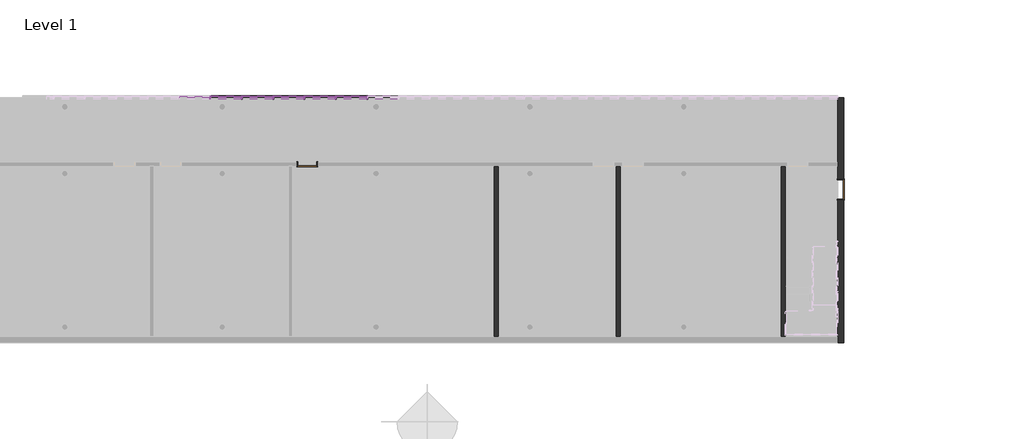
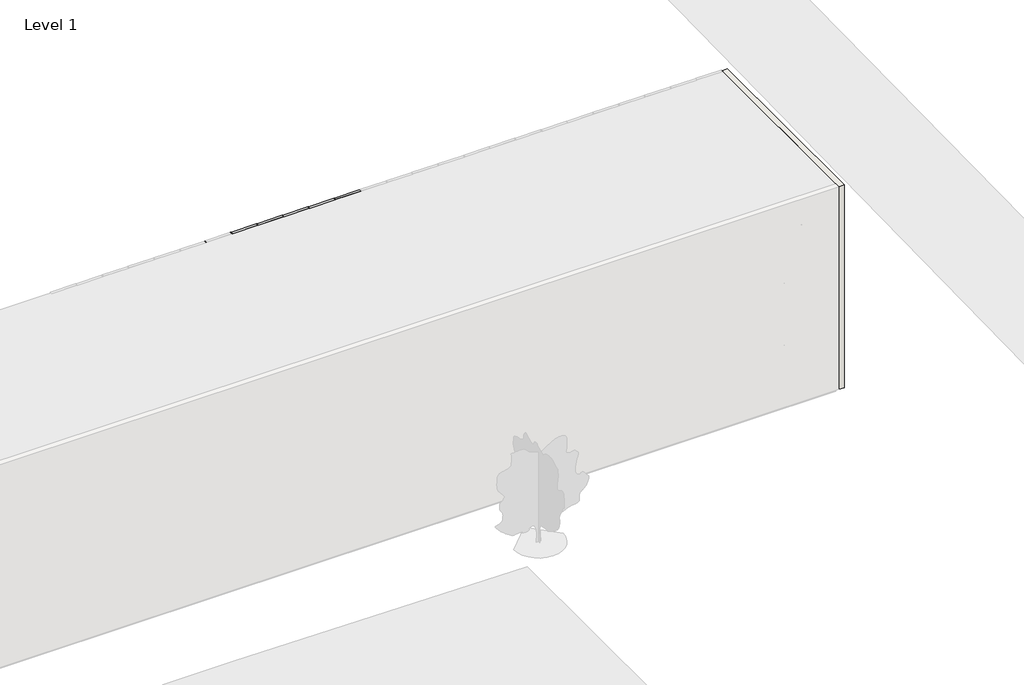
# One storey, part 6 of 27: 84 members, 40 plates, 4 walls, 2 doors.
"""IFC4 building model written with IfcOpenShell, lengths in millimetres."""

from ifc_helpers import new_model, si_unit, origin, origin_with_axes, place, context, project, spatial, polyline, outline, extrude, faceted_brep, transform, mapped, element, save
from components import door_0915mm_x_2134mm_3fa07aa3, door_0915mm_x_2134mm_b19b82af, rectangular_mullion_50mm_x_150mm_5f185edf, rectangular_mullion_50mm_x_150mm_e13fe9f0, rectangular_mullion_50mm_x_150mm_bbc1c4ea, rectangular_mullion_50mm_x_150mm_36202a7c, rectangular_mullion_50mm_x_150mm_84717ec5, system_panel_glazed_65478968, system_panel_glazed_4c130a31, system_panel_solid_368a6b70, system_panel_solid_ece33ae8

model = new_model("IFC4")

# Units and contexts
model_context = context("Model", 3, world=origin())
ifc_project = project(units=[si_unit("LENGTHUNIT", "METRE", prefix="MILLI")], contexts=[model_context])

# Site, building, storey
site = spatial("IfcSite", under=ifc_project)
building = spatial("IfcBuilding", under=site)
storey = spatial("IfcBuildingStorey", under=building, Name="Level 1", Elevation=0.0)

# Doors
placement = place(None, origin())
door_0915mm_x_2134mm_shape = door_0915mm_x_2134mm_3fa07aa3(model_context)
element("IfcDoor", 1, ObjectType="m-doors-hm-f1-a : 0915mm x 2134mm", at=placement, inside=storey, context=model_context, shape_type="MappedRepresentation", body=[
    mapped(door_0915mm_x_2134mm_shape, transform((31461.1968037, -15479.7006057, 0.0), x_axis=(1.0, 0.0, 0.0), y_axis=(0.0, 1.0, 0.0), z_axis=(0.0, 0.0, 1.0))),
])
door_0915mm_x_2134mm_2_shape = door_0915mm_x_2134mm_b19b82af(model_context)
element("IfcDoor", 2, ObjectType="m-doors-hm-f1-a : 0915mm x 2134mm", at=placement, inside=storey, context=model_context, shape_type="MappedRepresentation", body=[
    mapped(door_0915mm_x_2134mm_2_shape, transform((57025.1173382, -16504.7006057, 0.0), x_axis=(0.0, -1.0, 0.0), y_axis=(1.0, 0.0, 0.0), z_axis=(0.0, 0.0, 1.0))),
])

# Members
rectangular_mullion_50mm_x_150mm_shape = rectangular_mullion_50mm_x_150mm_5f185edf(model_context)
element("IfcMember", 3, ObjectType="Rectangular Mullion : 50mm x 150mm", at=placement, inside=storey, context=model_context, shape_type="MappedRepresentation", body=[
    mapped(rectangular_mullion_50mm_x_150mm_shape, transform((34337.0190355, -12132.3615692, 12400.0), x_axis=(0.0, 0.0, 1.0), y_axis=(0.0, 1.0, 0.0), z_axis=(-1.0, 0.0, 0.0))),
])
element("IfcMember", 4, ObjectType="Rectangular Mullion : 50mm x 150mm", at=placement, inside=storey, context=model_context, shape_type="MappedRepresentation", body=[
    mapped(rectangular_mullion_50mm_x_150mm_shape, transform((32844.5458154, -12132.3615692, 12400.0), x_axis=(0.0, 0.0, 1.0), y_axis=(0.0, 1.0, 0.0), z_axis=(-1.0, 0.0, 0.0))),
])
element("IfcMember", 5, ObjectType="Rectangular Mullion : 50mm x 150mm", at=placement, inside=storey, context=model_context, shape_type="MappedRepresentation", body=[
    mapped(rectangular_mullion_50mm_x_150mm_shape, transform((31352.0725952, -12132.3615692, 12400.0), x_axis=(0.0, 0.0, 1.0), y_axis=(0.0, 1.0, 0.0), z_axis=(-1.0, 0.0, 0.0))),
])
element("IfcMember", 6, ObjectType="Rectangular Mullion : 50mm x 150mm", at=placement, inside=storey, context=model_context, shape_type="MappedRepresentation", body=[
    mapped(rectangular_mullion_50mm_x_150mm_shape, transform((29859.599375, -12132.3615692, 12400.0), x_axis=(0.0, 0.0, 1.0), y_axis=(0.0, 1.0, 0.0), z_axis=(-1.0, 0.0, 0.0))),
])
element("IfcMember", 7, ObjectType="Rectangular Mullion : 50mm x 150mm", at=placement, inside=storey, context=model_context, shape_type="MappedRepresentation", body=[
    mapped(rectangular_mullion_50mm_x_150mm_shape, transform((28367.1261549, -12132.3615692, 12400.0), x_axis=(0.0, 0.0, 1.0), y_axis=(0.0, 1.0, 0.0), z_axis=(-1.0, 0.0, 0.0))),
])
element("IfcMember", 8, ObjectType="Rectangular Mullion : 50mm x 150mm", at=placement, inside=storey, context=model_context, shape_type="MappedRepresentation", body=[
    mapped(rectangular_mullion_50mm_x_150mm_shape, transform((34287.0190355, -12132.3615692, 0.0), x_axis=(0.0, 0.0, -1.0), y_axis=(0.0, 1.0, 0.0), z_axis=(1.0, 0.0, 0.0))),
])
element("IfcMember", 9, ObjectType="Rectangular Mullion : 50mm x 150mm", at=placement, inside=storey, context=model_context, shape_type="MappedRepresentation", body=[
    mapped(rectangular_mullion_50mm_x_150mm_shape, transform((32794.5458154, -12132.3615692, 0.0), x_axis=(0.0, 0.0, -1.0), y_axis=(0.0, 1.0, 0.0), z_axis=(1.0, 0.0, 0.0))),
])
element("IfcMember", 10, ObjectType="Rectangular Mullion : 50mm x 150mm", at=placement, inside=storey, context=model_context, shape_type="MappedRepresentation", body=[
    mapped(rectangular_mullion_50mm_x_150mm_shape, transform((31302.0725952, -12132.3615692, 0.0), x_axis=(0.0, 0.0, -1.0), y_axis=(0.0, 1.0, 0.0), z_axis=(1.0, 0.0, 0.0))),
])
element("IfcMember", 11, ObjectType="Rectangular Mullion : 50mm x 150mm", at=placement, inside=storey, context=model_context, shape_type="MappedRepresentation", body=[
    mapped(rectangular_mullion_50mm_x_150mm_shape, transform((29809.599375, -12132.3615692, 0.0), x_axis=(0.0, 0.0, -1.0), y_axis=(0.0, 1.0, 0.0), z_axis=(1.0, 0.0, 0.0))),
])
element("IfcMember", 12, ObjectType="Rectangular Mullion : 50mm x 150mm", at=placement, inside=storey, context=model_context, shape_type="MappedRepresentation", body=[
    mapped(rectangular_mullion_50mm_x_150mm_shape, transform((28317.1261549, -12132.3615692, 0.0), x_axis=(0.0, 0.0, -1.0), y_axis=(0.0, 1.0, 0.0), z_axis=(1.0, 0.0, 0.0))),
])
rectangular_mullion_50mm_x_150mm_2_shape = rectangular_mullion_50mm_x_150mm_e13fe9f0(model_context)
element("IfcMember", 13, ObjectType="Rectangular Mullion : 50mm x 150mm", at=placement, inside=storey, context=model_context, shape_type="MappedRepresentation", body=[
    mapped(rectangular_mullion_50mm_x_150mm_2_shape, transform((34337.0190355, -12132.3615692, 3800.0), x_axis=(0.0, 0.0, 1.0), y_axis=(0.0, 1.0, 0.0), z_axis=(-1.0, 0.0, 0.0))),
])
element("IfcMember", 14, ObjectType="Rectangular Mullion : 50mm x 150mm", at=placement, inside=storey, context=model_context, shape_type="MappedRepresentation", body=[
    mapped(rectangular_mullion_50mm_x_150mm_2_shape, transform((32844.5458154, -12132.3615692, 3800.0), x_axis=(0.0, 0.0, 1.0), y_axis=(0.0, 1.0, 0.0), z_axis=(-1.0, 0.0, 0.0))),
])
element("IfcMember", 15, ObjectType="Rectangular Mullion : 50mm x 150mm", at=placement, inside=storey, context=model_context, shape_type="MappedRepresentation", body=[
    mapped(rectangular_mullion_50mm_x_150mm_2_shape, transform((31352.0725952, -12132.3615692, 3800.0), x_axis=(0.0, 0.0, 1.0), y_axis=(0.0, 1.0, 0.0), z_axis=(-1.0, 0.0, 0.0))),
])
element("IfcMember", 16, ObjectType="Rectangular Mullion : 50mm x 150mm", at=placement, inside=storey, context=model_context, shape_type="MappedRepresentation", body=[
    mapped(rectangular_mullion_50mm_x_150mm_2_shape, transform((29859.599375, -12132.3615692, 3800.0), x_axis=(0.0, 0.0, 1.0), y_axis=(0.0, 1.0, 0.0), z_axis=(-1.0, 0.0, 0.0))),
])
element("IfcMember", 17, ObjectType="Rectangular Mullion : 50mm x 150mm", at=placement, inside=storey, context=model_context, shape_type="MappedRepresentation", body=[
    mapped(rectangular_mullion_50mm_x_150mm_2_shape, transform((28367.1261549, -12132.3615692, 3800.0), x_axis=(0.0, 0.0, 1.0), y_axis=(0.0, 1.0, 0.0), z_axis=(-1.0, 0.0, 0.0))),
])
element("IfcMember", 18, ObjectType="Rectangular Mullion : 50mm x 150mm", at=placement, inside=storey, context=model_context, shape_type="MappedRepresentation", body=[
    mapped(rectangular_mullion_50mm_x_150mm_2_shape, transform((34337.0190355, -12132.3615692, 7600.0), x_axis=(0.0, 0.0, 1.0), y_axis=(0.0, 1.0, 0.0), z_axis=(-1.0, 0.0, 0.0))),
])
element("IfcMember", 19, ObjectType="Rectangular Mullion : 50mm x 150mm", at=placement, inside=storey, context=model_context, shape_type="MappedRepresentation", body=[
    mapped(rectangular_mullion_50mm_x_150mm_2_shape, transform((32844.5458154, -12132.3615692, 7600.0), x_axis=(0.0, 0.0, 1.0), y_axis=(0.0, 1.0, 0.0), z_axis=(-1.0, 0.0, 0.0))),
])
element("IfcMember", 20, ObjectType="Rectangular Mullion : 50mm x 150mm", at=placement, inside=storey, context=model_context, shape_type="MappedRepresentation", body=[
    mapped(rectangular_mullion_50mm_x_150mm_2_shape, transform((31352.0725952, -12132.3615692, 7600.0), x_axis=(0.0, 0.0, 1.0), y_axis=(0.0, 1.0, 0.0), z_axis=(-1.0, 0.0, 0.0))),
])
element("IfcMember", 21, ObjectType="Rectangular Mullion : 50mm x 150mm", at=placement, inside=storey, context=model_context, shape_type="MappedRepresentation", body=[
    mapped(rectangular_mullion_50mm_x_150mm_2_shape, transform((29859.599375, -12132.3615692, 7600.0), x_axis=(0.0, 0.0, 1.0), y_axis=(0.0, 1.0, 0.0), z_axis=(-1.0, 0.0, 0.0))),
])
element("IfcMember", 22, ObjectType="Rectangular Mullion : 50mm x 150mm", at=placement, inside=storey, context=model_context, shape_type="MappedRepresentation", body=[
    mapped(rectangular_mullion_50mm_x_150mm_2_shape, transform((28367.1261549, -12132.3615692, 7600.0), x_axis=(0.0, 0.0, 1.0), y_axis=(0.0, 1.0, 0.0), z_axis=(-1.0, 0.0, 0.0))),
])
element("IfcMember", 23, ObjectType="Rectangular Mullion : 50mm x 150mm", at=placement, inside=storey, context=model_context, shape_type="MappedRepresentation", body=[
    mapped(rectangular_mullion_50mm_x_150mm_2_shape, transform((34337.0190355, -12132.3615692, 11400.0), x_axis=(0.0, 0.0, 1.0), y_axis=(0.0, 1.0, 0.0), z_axis=(-1.0, 0.0, 0.0))),
])
element("IfcMember", 24, ObjectType="Rectangular Mullion : 50mm x 150mm", at=placement, inside=storey, context=model_context, shape_type="MappedRepresentation", body=[
    mapped(rectangular_mullion_50mm_x_150mm_2_shape, transform((32844.5458154, -12132.3615692, 11400.0), x_axis=(0.0, 0.0, 1.0), y_axis=(0.0, 1.0, 0.0), z_axis=(-1.0, 0.0, 0.0))),
])
element("IfcMember", 25, ObjectType="Rectangular Mullion : 50mm x 150mm", at=placement, inside=storey, context=model_context, shape_type="MappedRepresentation", body=[
    mapped(rectangular_mullion_50mm_x_150mm_2_shape, transform((31352.0725952, -12132.3615692, 11400.0), x_axis=(0.0, 0.0, 1.0), y_axis=(0.0, 1.0, 0.0), z_axis=(-1.0, 0.0, 0.0))),
])
element("IfcMember", 26, ObjectType="Rectangular Mullion : 50mm x 150mm", at=placement, inside=storey, context=model_context, shape_type="MappedRepresentation", body=[
    mapped(rectangular_mullion_50mm_x_150mm_2_shape, transform((29859.599375, -12132.3615692, 11400.0), x_axis=(0.0, 0.0, 1.0), y_axis=(0.0, 1.0, 0.0), z_axis=(-1.0, 0.0, 0.0))),
])
element("IfcMember", 27, ObjectType="Rectangular Mullion : 50mm x 150mm", at=placement, inside=storey, context=model_context, shape_type="MappedRepresentation", body=[
    mapped(rectangular_mullion_50mm_x_150mm_2_shape, transform((28367.1261549, -12132.3615692, 11400.0), x_axis=(0.0, 0.0, 1.0), y_axis=(0.0, 1.0, 0.0), z_axis=(-1.0, 0.0, 0.0))),
])
element("IfcMember", 28, ObjectType="Rectangular Mullion : 50mm x 150mm", at=placement, inside=storey, context=model_context, shape_type="MappedRepresentation", body=[
    mapped(rectangular_mullion_50mm_x_150mm_2_shape, transform((34337.0190355, -12132.3615692, 2440.0), x_axis=(0.0, 0.0, 1.0), y_axis=(0.0, 1.0, 0.0), z_axis=(-1.0, 0.0, 0.0))),
])
element("IfcMember", 29, ObjectType="Rectangular Mullion : 50mm x 150mm", at=placement, inside=storey, context=model_context, shape_type="MappedRepresentation", body=[
    mapped(rectangular_mullion_50mm_x_150mm_2_shape, transform((32844.5458154, -12132.3615692, 2440.0), x_axis=(0.0, 0.0, 1.0), y_axis=(0.0, 1.0, 0.0), z_axis=(-1.0, 0.0, 0.0))),
])
element("IfcMember", 30, ObjectType="Rectangular Mullion : 50mm x 150mm", at=placement, inside=storey, context=model_context, shape_type="MappedRepresentation", body=[
    mapped(rectangular_mullion_50mm_x_150mm_2_shape, transform((31352.0725952, -12132.3615692, 2440.0), x_axis=(0.0, 0.0, 1.0), y_axis=(0.0, 1.0, 0.0), z_axis=(-1.0, 0.0, 0.0))),
])
element("IfcMember", 31, ObjectType="Rectangular Mullion : 50mm x 150mm", at=placement, inside=storey, context=model_context, shape_type="MappedRepresentation", body=[
    mapped(rectangular_mullion_50mm_x_150mm_2_shape, transform((29859.599375, -12132.3615692, 2440.0), x_axis=(0.0, 0.0, 1.0), y_axis=(0.0, 1.0, 0.0), z_axis=(-1.0, 0.0, 0.0))),
])
element("IfcMember", 32, ObjectType="Rectangular Mullion : 50mm x 150mm", at=placement, inside=storey, context=model_context, shape_type="MappedRepresentation", body=[
    mapped(rectangular_mullion_50mm_x_150mm_2_shape, transform((28367.1261549, -12132.3615692, 2440.0), x_axis=(0.0, 0.0, 1.0), y_axis=(0.0, 1.0, 0.0), z_axis=(-1.0, 0.0, 0.0))),
])
element("IfcMember", 33, ObjectType="Rectangular Mullion : 50mm x 150mm", at=placement, inside=storey, context=model_context, shape_type="MappedRepresentation", body=[
    mapped(rectangular_mullion_50mm_x_150mm_2_shape, transform((26874.6529347, -12132.3615692, 2440.0), x_axis=(0.0, 0.0, 1.0), y_axis=(0.0, 1.0, 0.0), z_axis=(-1.0, 0.0, 0.0))),
])
element("IfcMember", 34, ObjectType="Rectangular Mullion : 50mm x 150mm", at=placement, inside=storey, context=model_context, shape_type="MappedRepresentation", body=[
    mapped(rectangular_mullion_50mm_x_150mm_2_shape, transform((34337.0190355, -12132.3615692, 6240.0), x_axis=(0.0, 0.0, 1.0), y_axis=(0.0, 1.0, 0.0), z_axis=(-1.0, 0.0, 0.0))),
])
element("IfcMember", 35, ObjectType="Rectangular Mullion : 50mm x 150mm", at=placement, inside=storey, context=model_context, shape_type="MappedRepresentation", body=[
    mapped(rectangular_mullion_50mm_x_150mm_2_shape, transform((32844.5458154, -12132.3615692, 6240.0), x_axis=(0.0, 0.0, 1.0), y_axis=(0.0, 1.0, 0.0), z_axis=(-1.0, 0.0, 0.0))),
])
element("IfcMember", 36, ObjectType="Rectangular Mullion : 50mm x 150mm", at=placement, inside=storey, context=model_context, shape_type="MappedRepresentation", body=[
    mapped(rectangular_mullion_50mm_x_150mm_2_shape, transform((31352.0725952, -12132.3615692, 6240.0), x_axis=(0.0, 0.0, 1.0), y_axis=(0.0, 1.0, 0.0), z_axis=(-1.0, 0.0, 0.0))),
])
element("IfcMember", 37, ObjectType="Rectangular Mullion : 50mm x 150mm", at=placement, inside=storey, context=model_context, shape_type="MappedRepresentation", body=[
    mapped(rectangular_mullion_50mm_x_150mm_2_shape, transform((29859.599375, -12132.3615692, 6240.0), x_axis=(0.0, 0.0, 1.0), y_axis=(0.0, 1.0, 0.0), z_axis=(-1.0, 0.0, 0.0))),
])
element("IfcMember", 38, ObjectType="Rectangular Mullion : 50mm x 150mm", at=placement, inside=storey, context=model_context, shape_type="MappedRepresentation", body=[
    mapped(rectangular_mullion_50mm_x_150mm_2_shape, transform((28367.1261549, -12132.3615692, 6240.0), x_axis=(0.0, 0.0, 1.0), y_axis=(0.0, 1.0, 0.0), z_axis=(-1.0, 0.0, 0.0))),
])
element("IfcMember", 39, ObjectType="Rectangular Mullion : 50mm x 150mm", at=placement, inside=storey, context=model_context, shape_type="MappedRepresentation", body=[
    mapped(rectangular_mullion_50mm_x_150mm_2_shape, transform((26874.6529347, -12132.3615692, 6240.0), x_axis=(0.0, 0.0, 1.0), y_axis=(0.0, 1.0, 0.0), z_axis=(-1.0, 0.0, 0.0))),
])
element("IfcMember", 40, ObjectType="Rectangular Mullion : 50mm x 150mm", at=placement, inside=storey, context=model_context, shape_type="MappedRepresentation", body=[
    mapped(rectangular_mullion_50mm_x_150mm_2_shape, transform((34337.0190355, -12132.3615692, 10040.0), x_axis=(0.0, 0.0, 1.0), y_axis=(0.0, 1.0, 0.0), z_axis=(-1.0, 0.0, 0.0))),
])
element("IfcMember", 41, ObjectType="Rectangular Mullion : 50mm x 150mm", at=placement, inside=storey, context=model_context, shape_type="MappedRepresentation", body=[
    mapped(rectangular_mullion_50mm_x_150mm_2_shape, transform((32844.5458154, -12132.3615692, 10040.0), x_axis=(0.0, 0.0, 1.0), y_axis=(0.0, 1.0, 0.0), z_axis=(-1.0, 0.0, 0.0))),
])
element("IfcMember", 42, ObjectType="Rectangular Mullion : 50mm x 150mm", at=placement, inside=storey, context=model_context, shape_type="MappedRepresentation", body=[
    mapped(rectangular_mullion_50mm_x_150mm_2_shape, transform((31352.0725952, -12132.3615692, 10040.0), x_axis=(0.0, 0.0, 1.0), y_axis=(0.0, 1.0, 0.0), z_axis=(-1.0, 0.0, 0.0))),
])
element("IfcMember", 43, ObjectType="Rectangular Mullion : 50mm x 150mm", at=placement, inside=storey, context=model_context, shape_type="MappedRepresentation", body=[
    mapped(rectangular_mullion_50mm_x_150mm_2_shape, transform((29859.599375, -12132.3615692, 10040.0), x_axis=(0.0, 0.0, 1.0), y_axis=(0.0, 1.0, 0.0), z_axis=(-1.0, 0.0, 0.0))),
])
element("IfcMember", 44, ObjectType="Rectangular Mullion : 50mm x 150mm", at=placement, inside=storey, context=model_context, shape_type="MappedRepresentation", body=[
    mapped(rectangular_mullion_50mm_x_150mm_2_shape, transform((28367.1261549, -12132.3615692, 10040.0), x_axis=(0.0, 0.0, 1.0), y_axis=(0.0, 1.0, 0.0), z_axis=(-1.0, 0.0, 0.0))),
])
element("IfcMember", 45, ObjectType="Rectangular Mullion : 50mm x 150mm", at=placement, inside=storey, context=model_context, shape_type="MappedRepresentation", body=[
    mapped(rectangular_mullion_50mm_x_150mm_2_shape, transform((26874.6529347, -12132.3615692, 10040.0), x_axis=(0.0, 0.0, 1.0), y_axis=(0.0, 1.0, 0.0), z_axis=(-1.0, 0.0, 0.0))),
])
rectangular_mullion_50mm_x_150mm_3_shape = rectangular_mullion_50mm_x_150mm_bbc1c4ea(model_context)
element("IfcMember", 46, ObjectType="Rectangular Mullion : 50mm x 150mm", at=placement, inside=storey, context=model_context, shape_type="MappedRepresentation", body=[
    mapped(rectangular_mullion_50mm_x_150mm_3_shape, transform((34312.0190355, -12132.3615692, 11400.0), x_axis=(-1.0, 0.0, 0.0), y_axis=(0.0, 1.0, 0.0), z_axis=(0.0, 0.0, -1.0))),
])
element("IfcMember", 47, ObjectType="Rectangular Mullion : 50mm x 150mm", at=placement, inside=storey, context=model_context, shape_type="MappedRepresentation", body=[
    mapped(rectangular_mullion_50mm_x_150mm_3_shape, transform((32819.5458154, -12132.3615692, 11400.0), x_axis=(-1.0, 0.0, 0.0), y_axis=(0.0, 1.0, 0.0), z_axis=(0.0, 0.0, -1.0))),
])
element("IfcMember", 48, ObjectType="Rectangular Mullion : 50mm x 150mm", at=placement, inside=storey, context=model_context, shape_type="MappedRepresentation", body=[
    mapped(rectangular_mullion_50mm_x_150mm_3_shape, transform((31327.0725952, -12132.3615692, 11400.0), x_axis=(-1.0, 0.0, 0.0), y_axis=(0.0, 1.0, 0.0), z_axis=(0.0, 0.0, -1.0))),
])
element("IfcMember", 49, ObjectType="Rectangular Mullion : 50mm x 150mm", at=placement, inside=storey, context=model_context, shape_type="MappedRepresentation", body=[
    mapped(rectangular_mullion_50mm_x_150mm_3_shape, transform((29834.599375, -12132.3615692, 11400.0), x_axis=(-1.0, 0.0, 0.0), y_axis=(0.0, 1.0, 0.0), z_axis=(0.0, 0.0, -1.0))),
])
element("IfcMember", 50, ObjectType="Rectangular Mullion : 50mm x 150mm", at=placement, inside=storey, context=model_context, shape_type="MappedRepresentation", body=[
    mapped(rectangular_mullion_50mm_x_150mm_3_shape, transform((28342.1261549, -12132.3615692, 11400.0), x_axis=(-1.0, 0.0, 0.0), y_axis=(0.0, 1.0, 0.0), z_axis=(0.0, 0.0, -1.0))),
])
element("IfcMember", 51, ObjectType="Rectangular Mullion : 50mm x 150mm", at=placement, inside=storey, context=model_context, shape_type="MappedRepresentation", body=[
    mapped(rectangular_mullion_50mm_x_150mm_3_shape, transform((26849.6529347, -12132.3615692, 11400.0), x_axis=(-1.0, 0.0, 0.0), y_axis=(0.0, 1.0, 0.0), z_axis=(0.0, 0.0, -1.0))),
])
rectangular_mullion_50mm_x_150mm_4_shape = rectangular_mullion_50mm_x_150mm_36202a7c(model_context)
element("IfcMember", 52, ObjectType="Rectangular Mullion : 50mm x 150mm", at=placement, inside=storey, context=model_context, shape_type="MappedRepresentation", body=[
    mapped(rectangular_mullion_50mm_x_150mm_4_shape, transform((34312.0190355, -12132.3615692, 0.0), x_axis=(-1.0, 0.0, 0.0), y_axis=(0.0, 1.0, 0.0), z_axis=(0.0, 0.0, -1.0))),
])
element("IfcMember", 53, ObjectType="Rectangular Mullion : 50mm x 150mm", at=placement, inside=storey, context=model_context, shape_type="MappedRepresentation", body=[
    mapped(rectangular_mullion_50mm_x_150mm_4_shape, transform((32819.5458154, -12132.3615692, 0.0), x_axis=(-1.0, 0.0, 0.0), y_axis=(0.0, 1.0, 0.0), z_axis=(0.0, 0.0, -1.0))),
])
element("IfcMember", 54, ObjectType="Rectangular Mullion : 50mm x 150mm", at=placement, inside=storey, context=model_context, shape_type="MappedRepresentation", body=[
    mapped(rectangular_mullion_50mm_x_150mm_4_shape, transform((31327.0725952, -12132.3615692, 0.0), x_axis=(-1.0, 0.0, 0.0), y_axis=(0.0, 1.0, 0.0), z_axis=(0.0, 0.0, -1.0))),
])
element("IfcMember", 55, ObjectType="Rectangular Mullion : 50mm x 150mm", at=placement, inside=storey, context=model_context, shape_type="MappedRepresentation", body=[
    mapped(rectangular_mullion_50mm_x_150mm_4_shape, transform((29834.599375, -12132.3615692, 0.0), x_axis=(-1.0, 0.0, 0.0), y_axis=(0.0, 1.0, 0.0), z_axis=(0.0, 0.0, -1.0))),
])
element("IfcMember", 56, ObjectType="Rectangular Mullion : 50mm x 150mm", at=placement, inside=storey, context=model_context, shape_type="MappedRepresentation", body=[
    mapped(rectangular_mullion_50mm_x_150mm_4_shape, transform((28342.1261549, -12132.3615692, 0.0), x_axis=(-1.0, 0.0, 0.0), y_axis=(0.0, 1.0, 0.0), z_axis=(0.0, 0.0, -1.0))),
])
rectangular_mullion_50mm_x_150mm_5_shape = rectangular_mullion_50mm_x_150mm_84717ec5(model_context)
element("IfcMember", 57, ObjectType="Rectangular Mullion : 50mm x 150mm", at=placement, inside=storey, context=model_context, shape_type="MappedRepresentation", body=[
    mapped(rectangular_mullion_50mm_x_150mm_5_shape, transform((34312.0190355, -12132.3615692, 2440.0), x_axis=(-1.0, 0.0, 0.0), y_axis=(0.0, 1.0, 0.0), z_axis=(0.0, 0.0, -1.0))),
])
element("IfcMember", 58, ObjectType="Rectangular Mullion : 50mm x 150mm", at=placement, inside=storey, context=model_context, shape_type="MappedRepresentation", body=[
    mapped(rectangular_mullion_50mm_x_150mm_5_shape, transform((32819.5458154, -12132.3615692, 2440.0), x_axis=(-1.0, 0.0, 0.0), y_axis=(0.0, 1.0, 0.0), z_axis=(0.0, 0.0, -1.0))),
])
element("IfcMember", 59, ObjectType="Rectangular Mullion : 50mm x 150mm", at=placement, inside=storey, context=model_context, shape_type="MappedRepresentation", body=[
    mapped(rectangular_mullion_50mm_x_150mm_5_shape, transform((31327.0725952, -12132.3615692, 2440.0), x_axis=(-1.0, 0.0, 0.0), y_axis=(0.0, 1.0, 0.0), z_axis=(0.0, 0.0, -1.0))),
])
element("IfcMember", 60, ObjectType="Rectangular Mullion : 50mm x 150mm", at=placement, inside=storey, context=model_context, shape_type="MappedRepresentation", body=[
    mapped(rectangular_mullion_50mm_x_150mm_5_shape, transform((29834.599375, -12132.3615692, 2440.0), x_axis=(-1.0, 0.0, 0.0), y_axis=(0.0, 1.0, 0.0), z_axis=(0.0, 0.0, -1.0))),
])
element("IfcMember", 61, ObjectType="Rectangular Mullion : 50mm x 150mm", at=placement, inside=storey, context=model_context, shape_type="MappedRepresentation", body=[
    mapped(rectangular_mullion_50mm_x_150mm_5_shape, transform((28342.1261549, -12132.3615692, 2440.0), x_axis=(-1.0, 0.0, 0.0), y_axis=(0.0, 1.0, 0.0), z_axis=(0.0, 0.0, -1.0))),
])
element("IfcMember", 62, ObjectType="Rectangular Mullion : 50mm x 150mm", at=placement, inside=storey, context=model_context, shape_type="MappedRepresentation", body=[
    mapped(rectangular_mullion_50mm_x_150mm_5_shape, transform((26849.6529347, -12132.3615692, 2440.0), x_axis=(-1.0, 0.0, 0.0), y_axis=(0.0, 1.0, 0.0), z_axis=(0.0, 0.0, -1.0))),
])
element("IfcMember", 63, ObjectType="Rectangular Mullion : 50mm x 150mm", at=placement, inside=storey, context=model_context, shape_type="MappedRepresentation", body=[
    mapped(rectangular_mullion_50mm_x_150mm_5_shape, transform((34312.0190355, -12132.3615692, 6240.0), x_axis=(-1.0, 0.0, 0.0), y_axis=(0.0, 1.0, 0.0), z_axis=(0.0, 0.0, -1.0))),
])
element("IfcMember", 64, ObjectType="Rectangular Mullion : 50mm x 150mm", at=placement, inside=storey, context=model_context, shape_type="MappedRepresentation", body=[
    mapped(rectangular_mullion_50mm_x_150mm_5_shape, transform((32819.5458154, -12132.3615692, 6240.0), x_axis=(-1.0, 0.0, 0.0), y_axis=(0.0, 1.0, 0.0), z_axis=(0.0, 0.0, -1.0))),
])
element("IfcMember", 65, ObjectType="Rectangular Mullion : 50mm x 150mm", at=placement, inside=storey, context=model_context, shape_type="MappedRepresentation", body=[
    mapped(rectangular_mullion_50mm_x_150mm_5_shape, transform((31327.0725952, -12132.3615692, 6240.0), x_axis=(-1.0, 0.0, 0.0), y_axis=(0.0, 1.0, 0.0), z_axis=(0.0, 0.0, -1.0))),
])
element("IfcMember", 66, ObjectType="Rectangular Mullion : 50mm x 150mm", at=placement, inside=storey, context=model_context, shape_type="MappedRepresentation", body=[
    mapped(rectangular_mullion_50mm_x_150mm_5_shape, transform((29834.599375, -12132.3615692, 6240.0), x_axis=(-1.0, 0.0, 0.0), y_axis=(0.0, 1.0, 0.0), z_axis=(0.0, 0.0, -1.0))),
])
element("IfcMember", 67, ObjectType="Rectangular Mullion : 50mm x 150mm", at=placement, inside=storey, context=model_context, shape_type="MappedRepresentation", body=[
    mapped(rectangular_mullion_50mm_x_150mm_5_shape, transform((28342.1261549, -12132.3615692, 6240.0), x_axis=(-1.0, 0.0, 0.0), y_axis=(0.0, 1.0, 0.0), z_axis=(0.0, 0.0, -1.0))),
])
element("IfcMember", 68, ObjectType="Rectangular Mullion : 50mm x 150mm", at=placement, inside=storey, context=model_context, shape_type="MappedRepresentation", body=[
    mapped(rectangular_mullion_50mm_x_150mm_5_shape, transform((26849.6529347, -12132.3615692, 6240.0), x_axis=(-1.0, 0.0, 0.0), y_axis=(0.0, 1.0, 0.0), z_axis=(0.0, 0.0, -1.0))),
])
element("IfcMember", 69, ObjectType="Rectangular Mullion : 50mm x 150mm", at=placement, inside=storey, context=model_context, shape_type="MappedRepresentation", body=[
    mapped(rectangular_mullion_50mm_x_150mm_5_shape, transform((34312.0190355, -12132.3615692, 10040.0), x_axis=(-1.0, 0.0, 0.0), y_axis=(0.0, 1.0, 0.0), z_axis=(0.0, 0.0, -1.0))),
])
element("IfcMember", 70, ObjectType="Rectangular Mullion : 50mm x 150mm", at=placement, inside=storey, context=model_context, shape_type="MappedRepresentation", body=[
    mapped(rectangular_mullion_50mm_x_150mm_5_shape, transform((32819.5458154, -12132.3615692, 10040.0), x_axis=(-1.0, 0.0, 0.0), y_axis=(0.0, 1.0, 0.0), z_axis=(0.0, 0.0, -1.0))),
])
element("IfcMember", 71, ObjectType="Rectangular Mullion : 50mm x 150mm", at=placement, inside=storey, context=model_context, shape_type="MappedRepresentation", body=[
    mapped(rectangular_mullion_50mm_x_150mm_5_shape, transform((31327.0725952, -12132.3615692, 10040.0), x_axis=(-1.0, 0.0, 0.0), y_axis=(0.0, 1.0, 0.0), z_axis=(0.0, 0.0, -1.0))),
])
element("IfcMember", 72, ObjectType="Rectangular Mullion : 50mm x 150mm", at=placement, inside=storey, context=model_context, shape_type="MappedRepresentation", body=[
    mapped(rectangular_mullion_50mm_x_150mm_5_shape, transform((29834.599375, -12132.3615692, 10040.0), x_axis=(-1.0, 0.0, 0.0), y_axis=(0.0, 1.0, 0.0), z_axis=(0.0, 0.0, -1.0))),
])
element("IfcMember", 73, ObjectType="Rectangular Mullion : 50mm x 150mm", at=placement, inside=storey, context=model_context, shape_type="MappedRepresentation", body=[
    mapped(rectangular_mullion_50mm_x_150mm_5_shape, transform((28342.1261549, -12132.3615692, 10040.0), x_axis=(-1.0, 0.0, 0.0), y_axis=(0.0, 1.0, 0.0), z_axis=(0.0, 0.0, -1.0))),
])
element("IfcMember", 74, ObjectType="Rectangular Mullion : 50mm x 150mm", at=placement, inside=storey, context=model_context, shape_type="MappedRepresentation", body=[
    mapped(rectangular_mullion_50mm_x_150mm_5_shape, transform((26849.6529347, -12132.3615692, 10040.0), x_axis=(-1.0, 0.0, 0.0), y_axis=(0.0, 1.0, 0.0), z_axis=(0.0, 0.0, -1.0))),
])
element("IfcMember", 75, ObjectType="Rectangular Mullion : 50mm x 150mm", at=placement, inside=storey, context=model_context, shape_type="MappedRepresentation", body=[
    mapped(rectangular_mullion_50mm_x_150mm_4_shape, transform((34312.0190355, -12132.3615692, 3800.0), x_axis=(-1.0, 0.0, 0.0), y_axis=(0.0, 1.0, 0.0), z_axis=(0.0, 0.0, -1.0))),
])
element("IfcMember", 76, ObjectType="Rectangular Mullion : 50mm x 150mm", at=placement, inside=storey, context=model_context, shape_type="MappedRepresentation", body=[
    mapped(rectangular_mullion_50mm_x_150mm_4_shape, transform((32819.5458154, -12132.3615692, 3800.0), x_axis=(-1.0, 0.0, 0.0), y_axis=(0.0, 1.0, 0.0), z_axis=(0.0, 0.0, -1.0))),
])
element("IfcMember", 77, ObjectType="Rectangular Mullion : 50mm x 150mm", at=placement, inside=storey, context=model_context, shape_type="MappedRepresentation", body=[
    mapped(rectangular_mullion_50mm_x_150mm_4_shape, transform((31327.0725952, -12132.3615692, 3800.0), x_axis=(-1.0, 0.0, 0.0), y_axis=(0.0, 1.0, 0.0), z_axis=(0.0, 0.0, -1.0))),
])
element("IfcMember", 78, ObjectType="Rectangular Mullion : 50mm x 150mm", at=placement, inside=storey, context=model_context, shape_type="MappedRepresentation", body=[
    mapped(rectangular_mullion_50mm_x_150mm_4_shape, transform((29834.599375, -12132.3615692, 3800.0), x_axis=(-1.0, 0.0, 0.0), y_axis=(0.0, 1.0, 0.0), z_axis=(0.0, 0.0, -1.0))),
])
element("IfcMember", 79, ObjectType="Rectangular Mullion : 50mm x 150mm", at=placement, inside=storey, context=model_context, shape_type="MappedRepresentation", body=[
    mapped(rectangular_mullion_50mm_x_150mm_4_shape, transform((28342.1261549, -12132.3615692, 3800.0), x_axis=(-1.0, 0.0, 0.0), y_axis=(0.0, 1.0, 0.0), z_axis=(0.0, 0.0, -1.0))),
])
element("IfcMember", 80, ObjectType="Rectangular Mullion : 50mm x 150mm", at=placement, inside=storey, context=model_context, shape_type="MappedRepresentation", body=[
    mapped(rectangular_mullion_50mm_x_150mm_4_shape, transform((26849.6529347, -12132.3615692, 3800.0), x_axis=(-1.0, 0.0, 0.0), y_axis=(0.0, 1.0, 0.0), z_axis=(0.0, 0.0, -1.0))),
])
element("IfcMember", 81, ObjectType="Rectangular Mullion : 50mm x 150mm", at=placement, inside=storey, context=model_context, shape_type="MappedRepresentation", body=[
    mapped(rectangular_mullion_50mm_x_150mm_4_shape, transform((34312.0190355, -12132.3615692, 7600.0), x_axis=(-1.0, 0.0, 0.0), y_axis=(0.0, 1.0, 0.0), z_axis=(0.0, 0.0, -1.0))),
])
element("IfcMember", 82, ObjectType="Rectangular Mullion : 50mm x 150mm", at=placement, inside=storey, context=model_context, shape_type="MappedRepresentation", body=[
    mapped(rectangular_mullion_50mm_x_150mm_4_shape, transform((32819.5458154, -12132.3615692, 7600.0), x_axis=(-1.0, 0.0, 0.0), y_axis=(0.0, 1.0, 0.0), z_axis=(0.0, 0.0, -1.0))),
])
element("IfcMember", 83, ObjectType="Rectangular Mullion : 50mm x 150mm", at=placement, inside=storey, context=model_context, shape_type="MappedRepresentation", body=[
    mapped(rectangular_mullion_50mm_x_150mm_4_shape, transform((31327.0725952, -12132.3615692, 7600.0), x_axis=(-1.0, 0.0, 0.0), y_axis=(0.0, 1.0, 0.0), z_axis=(0.0, 0.0, -1.0))),
])
element("IfcMember", 84, ObjectType="Rectangular Mullion : 50mm x 150mm", at=placement, inside=storey, context=model_context, shape_type="MappedRepresentation", body=[
    mapped(rectangular_mullion_50mm_x_150mm_4_shape, transform((29834.599375, -12132.3615692, 7600.0), x_axis=(-1.0, 0.0, 0.0), y_axis=(0.0, 1.0, 0.0), z_axis=(0.0, 0.0, -1.0))),
])
element("IfcMember", 85, ObjectType="Rectangular Mullion : 50mm x 150mm", at=placement, inside=storey, context=model_context, shape_type="MappedRepresentation", body=[
    mapped(rectangular_mullion_50mm_x_150mm_4_shape, transform((28342.1261549, -12132.3615692, 7600.0), x_axis=(-1.0, 0.0, 0.0), y_axis=(0.0, 1.0, 0.0), z_axis=(0.0, 0.0, -1.0))),
])
element("IfcMember", 86, ObjectType="Rectangular Mullion : 50mm x 150mm", at=placement, inside=storey, context=model_context, shape_type="MappedRepresentation", body=[
    mapped(rectangular_mullion_50mm_x_150mm_4_shape, transform((26849.6529347, -12132.3615692, 7600.0), x_axis=(-1.0, 0.0, 0.0), y_axis=(0.0, 1.0, 0.0), z_axis=(0.0, 0.0, -1.0))),
])

# Plates
system_panel_glazed_shape = system_panel_glazed_65478968(model_context)
element("IfcPlate", 87, ObjectType="System Panel : Glazed", at=placement, inside=storey, context=model_context, shape_type="MappedRepresentation", body=[
    mapped(system_panel_glazed_shape, transform((35058.2556456, -12132.3615692, 50.0), x_axis=(-1.0, 0.0, 0.0), y_axis=(0.0, -1.0, 0.0), z_axis=(0.0, 0.0, 1.0))),
])
element("IfcPlate", 88, ObjectType="System Panel : Glazed", at=placement, inside=storey, context=model_context, shape_type="MappedRepresentation", body=[
    mapped(system_panel_glazed_shape, transform((33565.7824254, -12132.3615692, 50.0), x_axis=(-1.0, 0.0, 0.0), y_axis=(0.0, -1.0, 0.0), z_axis=(0.0, 0.0, 1.0))),
])
element("IfcPlate", 89, ObjectType="System Panel : Glazed", at=placement, inside=storey, context=model_context, shape_type="MappedRepresentation", body=[
    mapped(system_panel_glazed_shape, transform((32073.3092053, -12132.3615692, 50.0), x_axis=(-1.0, 0.0, 0.0), y_axis=(0.0, -1.0, 0.0), z_axis=(0.0, 0.0, 1.0))),
])
element("IfcPlate", 90, ObjectType="System Panel : Glazed", at=placement, inside=storey, context=model_context, shape_type="MappedRepresentation", body=[
    mapped(system_panel_glazed_shape, transform((30580.8359851, -12132.3615692, 50.0), x_axis=(-1.0, 0.0, 0.0), y_axis=(0.0, -1.0, 0.0), z_axis=(0.0, 0.0, 1.0))),
])
element("IfcPlate", 91, ObjectType="System Panel : Glazed", at=placement, inside=storey, context=model_context, shape_type="MappedRepresentation", body=[
    mapped(system_panel_glazed_shape, transform((29088.362765, -12132.3615692, 50.0), x_axis=(-1.0, 0.0, 0.0), y_axis=(0.0, -1.0, 0.0), z_axis=(0.0, 0.0, 1.0))),
])
element("IfcPlate", 92, ObjectType="System Panel : Glazed", at=placement, inside=storey, context=model_context, shape_type="MappedRepresentation", body=[
    mapped(system_panel_glazed_shape, transform((27595.8895448, -12132.3615692, 50.0), x_axis=(-1.0, 0.0, 0.0), y_axis=(0.0, -1.0, 0.0), z_axis=(0.0, 0.0, 1.0))),
])
system_panel_glazed_2_shape = system_panel_glazed_4c130a31(model_context)
element("IfcPlate", 93, ObjectType="System Panel : Glazed", at=placement, inside=storey, context=model_context, shape_type="MappedRepresentation", body=[
    mapped(system_panel_glazed_2_shape, transform((35058.2556456, -12132.3615692, 3825.0), x_axis=(-1.0, 0.0, 0.0), y_axis=(0.0, -1.0, 0.0), z_axis=(0.0, 0.0, 1.0))),
])
element("IfcPlate", 94, ObjectType="System Panel : Glazed", at=placement, inside=storey, context=model_context, shape_type="MappedRepresentation", body=[
    mapped(system_panel_glazed_2_shape, transform((33565.7824254, -12132.3615692, 3825.0), x_axis=(-1.0, 0.0, 0.0), y_axis=(0.0, -1.0, 0.0), z_axis=(0.0, 0.0, 1.0))),
])
element("IfcPlate", 95, ObjectType="System Panel : Glazed", at=placement, inside=storey, context=model_context, shape_type="MappedRepresentation", body=[
    mapped(system_panel_glazed_2_shape, transform((32073.3092053, -12132.3615692, 3825.0), x_axis=(-1.0, 0.0, 0.0), y_axis=(0.0, -1.0, 0.0), z_axis=(0.0, 0.0, 1.0))),
])
element("IfcPlate", 96, ObjectType="System Panel : Glazed", at=placement, inside=storey, context=model_context, shape_type="MappedRepresentation", body=[
    mapped(system_panel_glazed_2_shape, transform((30580.8359851, -12132.3615692, 3825.0), x_axis=(-1.0, 0.0, 0.0), y_axis=(0.0, -1.0, 0.0), z_axis=(0.0, 0.0, 1.0))),
])
element("IfcPlate", 97, ObjectType="System Panel : Glazed", at=placement, inside=storey, context=model_context, shape_type="MappedRepresentation", body=[
    mapped(system_panel_glazed_2_shape, transform((29088.362765, -12132.3615692, 3825.0), x_axis=(-1.0, 0.0, 0.0), y_axis=(0.0, -1.0, 0.0), z_axis=(0.0, 0.0, 1.0))),
])
element("IfcPlate", 98, ObjectType="System Panel : Glazed", at=placement, inside=storey, context=model_context, shape_type="MappedRepresentation", body=[
    mapped(system_panel_glazed_2_shape, transform((27595.8895448, -12132.3615692, 3825.0), x_axis=(-1.0, 0.0, 0.0), y_axis=(0.0, -1.0, 0.0), z_axis=(0.0, 0.0, 1.0))),
])
element("IfcPlate", 99, ObjectType="System Panel : Glazed", at=placement, inside=storey, context=model_context, shape_type="MappedRepresentation", body=[
    mapped(system_panel_glazed_2_shape, transform((33565.7824254, -12132.3615692, 7625.0), x_axis=(-1.0, 0.0, 0.0), y_axis=(0.0, -1.0, 0.0), z_axis=(0.0, 0.0, 1.0))),
])
element("IfcPlate", 100, ObjectType="System Panel : Glazed", at=placement, inside=storey, context=model_context, shape_type="MappedRepresentation", body=[
    mapped(system_panel_glazed_2_shape, transform((32073.3092053, -12132.3615692, 7625.0), x_axis=(-1.0, 0.0, 0.0), y_axis=(0.0, -1.0, 0.0), z_axis=(0.0, 0.0, 1.0))),
])
element("IfcPlate", 101, ObjectType="System Panel : Glazed", at=placement, inside=storey, context=model_context, shape_type="MappedRepresentation", body=[
    mapped(system_panel_glazed_2_shape, transform((30580.8359851, -12132.3615692, 7625.0), x_axis=(-1.0, 0.0, 0.0), y_axis=(0.0, -1.0, 0.0), z_axis=(0.0, 0.0, 1.0))),
])
element("IfcPlate", 102, ObjectType="System Panel : Glazed", at=placement, inside=storey, context=model_context, shape_type="MappedRepresentation", body=[
    mapped(system_panel_glazed_2_shape, transform((29088.362765, -12132.3615692, 7625.0), x_axis=(-1.0, 0.0, 0.0), y_axis=(0.0, -1.0, 0.0), z_axis=(0.0, 0.0, 1.0))),
])
element("IfcPlate", 103, ObjectType="System Panel : Glazed", at=placement, inside=storey, context=model_context, shape_type="MappedRepresentation", body=[
    mapped(system_panel_glazed_2_shape, transform((27595.8895448, -12132.3615692, 7625.0), x_axis=(-1.0, 0.0, 0.0), y_axis=(0.0, -1.0, 0.0), z_axis=(0.0, 0.0, 1.0))),
])
system_panel_solid_shape = system_panel_solid_368a6b70(model_context)
element("IfcPlate", 104, ObjectType="System Panel : Solid", at=placement, inside=storey, context=model_context, shape_type="MappedRepresentation", body=[
    mapped(system_panel_solid_shape, transform((33565.7824254, -12132.3615692, 11425.0), x_axis=(-1.0, 0.0, 0.0), y_axis=(0.0, -1.0, 0.0), z_axis=(0.0, 0.0, 1.0))),
])
element("IfcPlate", 105, ObjectType="System Panel : Solid", at=placement, inside=storey, context=model_context, shape_type="MappedRepresentation", body=[
    mapped(system_panel_solid_shape, transform((32073.3092053, -12132.3615692, 11425.0), x_axis=(-1.0, 0.0, 0.0), y_axis=(0.0, -1.0, 0.0), z_axis=(0.0, 0.0, 1.0))),
])
element("IfcPlate", 106, ObjectType="System Panel : Solid", at=placement, inside=storey, context=model_context, shape_type="MappedRepresentation", body=[
    mapped(system_panel_solid_shape, transform((30580.8359851, -12132.3615692, 11425.0), x_axis=(-1.0, 0.0, 0.0), y_axis=(0.0, -1.0, 0.0), z_axis=(0.0, 0.0, 1.0))),
])
element("IfcPlate", 107, ObjectType="System Panel : Solid", at=placement, inside=storey, context=model_context, shape_type="MappedRepresentation", body=[
    mapped(system_panel_solid_shape, transform((29088.362765, -12132.3615692, 11425.0), x_axis=(-1.0, 0.0, 0.0), y_axis=(0.0, -1.0, 0.0), z_axis=(0.0, 0.0, 1.0))),
])
element("IfcPlate", 108, ObjectType="System Panel : Solid", at=placement, inside=storey, context=model_context, shape_type="MappedRepresentation", body=[
    mapped(system_panel_solid_shape, transform((27595.8895448, -12132.3615692, 11425.0), x_axis=(-1.0, 0.0, 0.0), y_axis=(0.0, -1.0, 0.0), z_axis=(0.0, 0.0, 1.0))),
])
system_panel_solid_2_shape = system_panel_solid_ece33ae8(model_context)
element("IfcPlate", 109, ObjectType="System Panel : Solid", at=placement, inside=storey, context=model_context, shape_type="MappedRepresentation", body=[
    mapped(system_panel_solid_2_shape, transform((33565.7824254, -12132.3615692, 2465.0), x_axis=(-1.0, 0.0, 0.0), y_axis=(0.0, -1.0, 0.0), z_axis=(0.0, 0.0, 1.0))),
])
element("IfcPlate", 110, ObjectType="System Panel : Solid", at=placement, inside=storey, context=model_context, shape_type="MappedRepresentation", body=[
    mapped(system_panel_solid_2_shape, transform((32073.3092053, -12132.3615692, 2465.0), x_axis=(-1.0, 0.0, 0.0), y_axis=(0.0, -1.0, 0.0), z_axis=(0.0, 0.0, 1.0))),
])
element("IfcPlate", 111, ObjectType="System Panel : Solid", at=placement, inside=storey, context=model_context, shape_type="MappedRepresentation", body=[
    mapped(system_panel_solid_2_shape, transform((30580.8359851, -12132.3615692, 2465.0), x_axis=(-1.0, 0.0, 0.0), y_axis=(0.0, -1.0, 0.0), z_axis=(0.0, 0.0, 1.0))),
])
element("IfcPlate", 112, ObjectType="System Panel : Solid", at=placement, inside=storey, context=model_context, shape_type="MappedRepresentation", body=[
    mapped(system_panel_solid_2_shape, transform((29088.362765, -12132.3615692, 2465.0), x_axis=(-1.0, 0.0, 0.0), y_axis=(0.0, -1.0, 0.0), z_axis=(0.0, 0.0, 1.0))),
])
element("IfcPlate", 113, ObjectType="System Panel : Solid", at=placement, inside=storey, context=model_context, shape_type="MappedRepresentation", body=[
    mapped(system_panel_solid_2_shape, transform((27595.8895448, -12132.3615692, 2465.0), x_axis=(-1.0, 0.0, 0.0), y_axis=(0.0, -1.0, 0.0), z_axis=(0.0, 0.0, 1.0))),
])
element("IfcPlate", 114, ObjectType="System Panel : Solid", at=placement, inside=storey, context=model_context, shape_type="MappedRepresentation", body=[
    mapped(system_panel_solid_2_shape, transform((26103.4163247, -12132.3615692, 2465.0), x_axis=(-1.0, 0.0, 0.0), y_axis=(0.0, -1.0, 0.0), z_axis=(0.0, 0.0, 1.0))),
])
element("IfcPlate", 115, ObjectType="System Panel : Solid", at=placement, inside=storey, context=model_context, shape_type="MappedRepresentation", body=[
    mapped(system_panel_solid_2_shape, transform((33565.7824254, -12132.3615692, 6265.0), x_axis=(-1.0, 0.0, 0.0), y_axis=(0.0, -1.0, 0.0), z_axis=(0.0, 0.0, 1.0))),
])
element("IfcPlate", 116, ObjectType="System Panel : Solid", at=placement, inside=storey, context=model_context, shape_type="MappedRepresentation", body=[
    mapped(system_panel_solid_2_shape, transform((32073.3092053, -12132.3615692, 6265.0), x_axis=(-1.0, 0.0, 0.0), y_axis=(0.0, -1.0, 0.0), z_axis=(0.0, 0.0, 1.0))),
])
element("IfcPlate", 117, ObjectType="System Panel : Solid", at=placement, inside=storey, context=model_context, shape_type="MappedRepresentation", body=[
    mapped(system_panel_solid_2_shape, transform((30580.8359851, -12132.3615692, 6265.0), x_axis=(-1.0, 0.0, 0.0), y_axis=(0.0, -1.0, 0.0), z_axis=(0.0, 0.0, 1.0))),
])
element("IfcPlate", 118, ObjectType="System Panel : Solid", at=placement, inside=storey, context=model_context, shape_type="MappedRepresentation", body=[
    mapped(system_panel_solid_2_shape, transform((29088.362765, -12132.3615692, 6265.0), x_axis=(-1.0, 0.0, 0.0), y_axis=(0.0, -1.0, 0.0), z_axis=(0.0, 0.0, 1.0))),
])
element("IfcPlate", 119, ObjectType="System Panel : Solid", at=placement, inside=storey, context=model_context, shape_type="MappedRepresentation", body=[
    mapped(system_panel_solid_2_shape, transform((27595.8895448, -12132.3615692, 6265.0), x_axis=(-1.0, 0.0, 0.0), y_axis=(0.0, -1.0, 0.0), z_axis=(0.0, 0.0, 1.0))),
])
element("IfcPlate", 120, ObjectType="System Panel : Solid", at=placement, inside=storey, context=model_context, shape_type="MappedRepresentation", body=[
    mapped(system_panel_solid_2_shape, transform((26103.4163247, -12132.3615692, 6265.0), x_axis=(-1.0, 0.0, 0.0), y_axis=(0.0, -1.0, 0.0), z_axis=(0.0, 0.0, 1.0))),
])
element("IfcPlate", 121, ObjectType="System Panel : Solid", at=placement, inside=storey, context=model_context, shape_type="MappedRepresentation", body=[
    mapped(system_panel_solid_2_shape, transform((33565.7824254, -12132.3615692, 10065.0), x_axis=(-1.0, 0.0, 0.0), y_axis=(0.0, -1.0, 0.0), z_axis=(0.0, 0.0, 1.0))),
])
element("IfcPlate", 122, ObjectType="System Panel : Solid", at=placement, inside=storey, context=model_context, shape_type="MappedRepresentation", body=[
    mapped(system_panel_solid_2_shape, transform((32073.3092053, -12132.3615692, 10065.0), x_axis=(-1.0, 0.0, 0.0), y_axis=(0.0, -1.0, 0.0), z_axis=(0.0, 0.0, 1.0))),
])
element("IfcPlate", 123, ObjectType="System Panel : Solid", at=placement, inside=storey, context=model_context, shape_type="MappedRepresentation", body=[
    mapped(system_panel_solid_2_shape, transform((30580.8359851, -12132.3615692, 10065.0), x_axis=(-1.0, 0.0, 0.0), y_axis=(0.0, -1.0, 0.0), z_axis=(0.0, 0.0, 1.0))),
])
element("IfcPlate", 124, ObjectType="System Panel : Solid", at=placement, inside=storey, context=model_context, shape_type="MappedRepresentation", body=[
    mapped(system_panel_solid_2_shape, transform((29088.362765, -12132.3615692, 10065.0), x_axis=(-1.0, 0.0, 0.0), y_axis=(0.0, -1.0, 0.0), z_axis=(0.0, 0.0, 1.0))),
])
element("IfcPlate", 125, ObjectType="System Panel : Solid", at=placement, inside=storey, context=model_context, shape_type="MappedRepresentation", body=[
    mapped(system_panel_solid_2_shape, transform((27595.8895448, -12132.3615692, 10065.0), x_axis=(-1.0, 0.0, 0.0), y_axis=(0.0, -1.0, 0.0), z_axis=(0.0, 0.0, 1.0))),
])
element("IfcPlate", 126, ObjectType="System Panel : Solid", at=placement, inside=storey, context=model_context, shape_type="MappedRepresentation", body=[
    mapped(system_panel_solid_2_shape, transform((26103.4163247, -12132.3615692, 10065.0), x_axis=(-1.0, 0.0, 0.0), y_axis=(0.0, -1.0, 0.0), z_axis=(0.0, 0.0, 1.0))),
])

# Walls
element("IfcWall", 127, ObjectType="Exterior - EIFS on Mtl Stud", at=placement, inside=storey, context=model_context, shape_type="Brep", body=[
    faceted_brep([(57001.1173382, -12132.3615692, 0.0), (57001.1173382, -12132.3615692, 12400.0), (57001.1173382, -23812.7006057, 12400.0), (57001.1173382, -23812.7006057, 0.0), (57001.1173382, -17012.2006057, 0.0), (57001.1173382, -17012.2006057, 2184.0), (57001.1173382, -15997.2006057, 2184.0), (57001.1173382, -15997.2006057, 0.0), (56699.1173382, -12132.3615692, 12400.0), (56699.1173382, -12132.3615692, 0.0), (56699.1173382, -15212.7006057, 0.0), (56699.1173382, -15396.7006057, 0.0), (56699.1173382, -15997.2006057, 0.0), (56699.1173382, -15997.2006057, 2184.0), (56699.1173382, -17012.2006057, 2184.0), (56699.1173382, -17012.2006057, 0.0), (56699.1173382, -23510.7006057, 0.0), (56699.1173382, -23812.7006057, 0.0), (56699.1173382, -23812.7006057, 12400.0), (56699.1173382, -23510.7006057, 12400.0)], [[[0, 1, 2, 3, 4, 5, 6, 7]], [[8, 9, 10, 11, 12, 13, 14, 15, 16, 17, 18, 19]], [[9, 0, 7, 12, 11, 10]], [[3, 17, 16, 15, 4]], [[1, 0, 9, 8]], [[2, 1, 8, 19, 18]], [[3, 2, 18, 17]], [[14, 5, 4, 15]], [[5, 14, 13, 6]], [[6, 13, 12, 7]]]),
])
element("IfcWall", 128, ObjectType="P28 190mm CMU 2 HR", at=placement, inside=storey, context=model_context, shape_type="SweptSolid", body=[
    extrude(outline(polyline([(54009.1173382, -23510.7006057), (54009.1173382, -15396.7006057), (54199.1173382, -15396.7006057), (54199.1173382, -23510.7006057), (54009.1173382, -23510.7006057)])), origin_with_axes(), (0.0, 0.0, 1.0), 3550.0),
])
element("IfcWall", 129, ObjectType="P4 184mm", at=placement, inside=storey, context=model_context, shape_type="SweptSolid", body=[
    extrude(outline(polyline([(40369.1968037, -23510.7006057), (40369.1968037, -15396.7006057), (40553.1968037, -15396.7006057), (40553.1968037, -23510.7006057), (40369.1968037, -23510.7006057)])), origin_with_axes(), (0.0, 0.0, 1.0), 3550.0),
])
element("IfcWall", 130, ObjectType="P4 184mm", at=placement, inside=storey, context=model_context, shape_type="SweptSolid", body=[
    extrude(outline(polyline([(46169.1968037, -23510.7006057), (46169.1968037, -15396.7006057), (46353.1968037, -15396.7006057), (46353.1968037, -23510.7006057), (46169.1968037, -23510.7006057)])), origin_with_axes(), (0.0, 0.0, 1.0), 3550.0),
])

save(model, "model.ifc")
